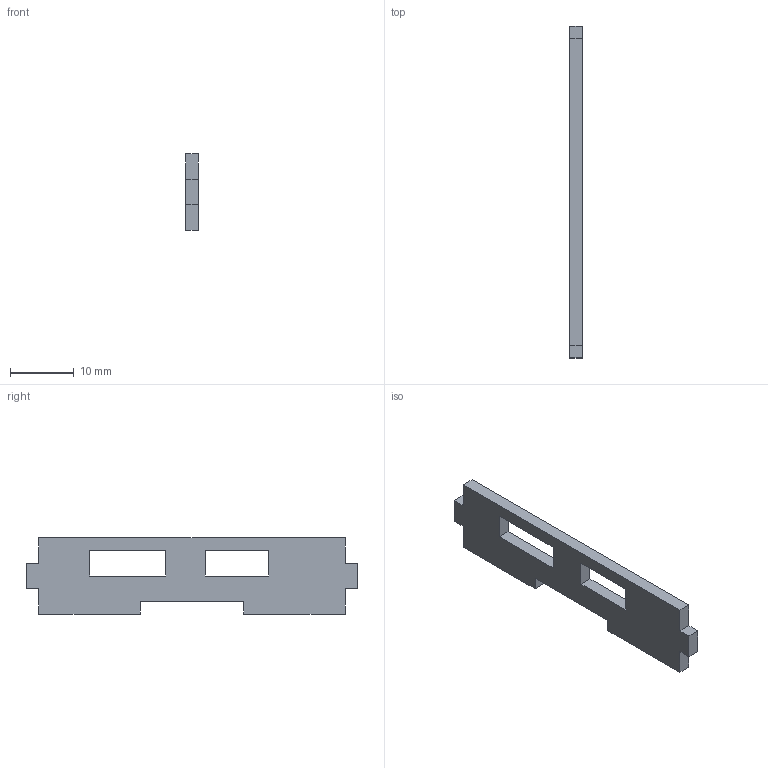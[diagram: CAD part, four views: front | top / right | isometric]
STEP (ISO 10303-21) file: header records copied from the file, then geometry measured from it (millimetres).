
FILE_DESCRIPTION(('FreeCAD Model'),'2;1');
FILE_NAME('Open CASCADE Shape Model','2025-03-08T17:34:44',(''),(''), 'Open CASCADE STEP processor 7.8','FreeCAD','Unknown');
FILE_SCHEMA(('AUTOMOTIVE_DESIGN { 1 0 10303 214 1 1 1 1 }'));
Length unit declared in the file: millimetre
Products named in the file (1): 左hdmi
Bounding box: 2 x 52.2 x 12 mm (x, y, z)
Volume: 948 mm3; surface area: 1332.8 mm2
Topology: 1 solids, 1 shells, 26 faces, 72 edges, 48 vertices
Faces by surface type: plane 26
Entity records: 846 total; most frequent: CARTESIAN_POINT 147, ORIENTED_EDGE 144, DIRECTION 126, EDGE_CURVE 72, LINE 72, VECTOR 72, VERTEX_POINT 48, FACE_BOUND 30
